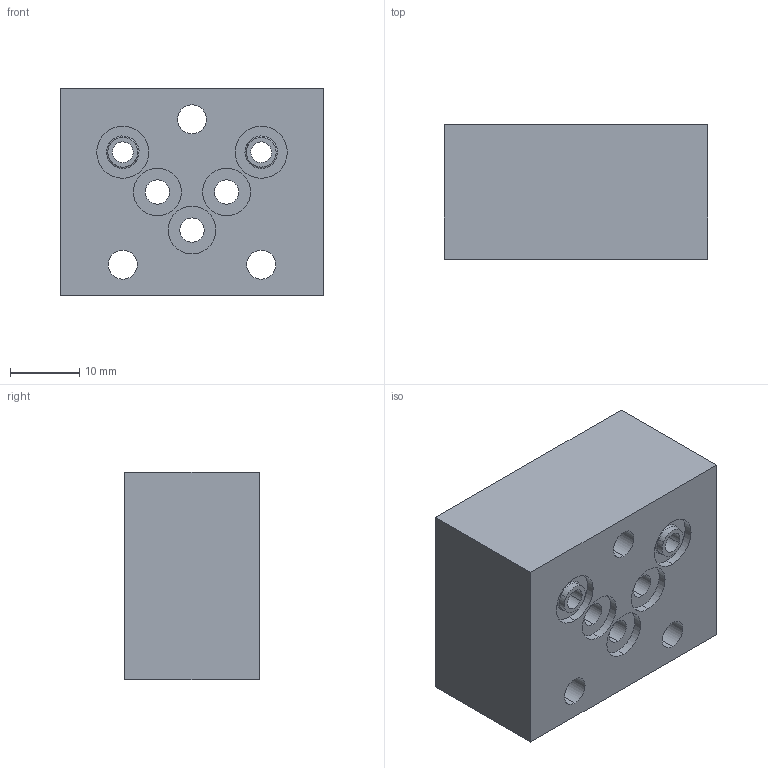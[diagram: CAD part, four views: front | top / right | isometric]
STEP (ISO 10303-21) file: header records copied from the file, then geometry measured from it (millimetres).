
FILE_DESCRIPTION (( 'STEP AP214' ), '1' );
FILE_NAME ('RNNSSA03-T.STEP', '2017-04-11T09:30:45', ( '' ), ( '' ), 'SwSTEP 2.0', 'SolidWorks 2016', '' );
FILE_SCHEMA (( 'AUTOMOTIVE_DESIGN' ));
Length unit declared in the file: millimetre
Products named in the file (1): RNNSSA03-T
Bounding box: 38 x 19.5 x 30 mm (x, y, z)
Volume: 20307.2 mm3; surface area: 6739.2 mm2
Topology: 1 solids, 1 shells, 61 faces, 142 edges, 92 vertices
Faces by surface type: cylinder 38, plane 19, torus 4
Entity records: 2455 total; most frequent: DIRECTION 358, CARTESIAN_POINT 296, ORIENTED_EDGE 284, AXIS2_PLACEMENT_3D 154, EDGE_CURVE 142, VERTEX_POINT 92, CIRCLE 92, EDGE_LOOP 86
